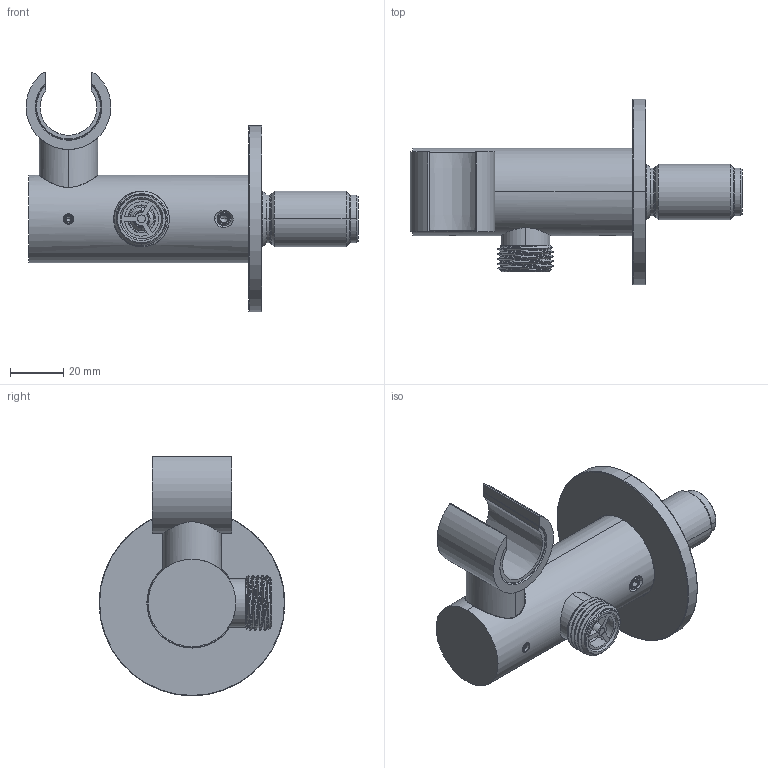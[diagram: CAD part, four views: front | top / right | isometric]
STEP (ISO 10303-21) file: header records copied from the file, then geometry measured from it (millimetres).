
FILE_DESCRIPTION((''),'2;1');
FILE_NAME('46883--_ASM','2025-03-03T15:40:23',('clra1'),(''),'CREO PARAMETRIC BY PTC INC, 2022244','CREO PARAMETRIC BY PTC INC, 2022244','');
FILE_SCHEMA(('CONFIG_CONTROL_DESIGN'));
Length unit declared in the file: millimetre
Products named in the file (24): 4688500; 4420585; 4449100; 46618--; 46884--; 7921600; 4449200; 46887--_PRT1; 46887--_PRT2; 46887--_ASM; 46898--; 42573--; 4950500-1; 4950500-2; 4950500-3; 4950500-F; 4950500-02; 4950500-01; 4950100_ASM; 4255900; 4124500; 4688800; 4689900; 46883--_ASM
Assembly tree (25 placements, depth 3):
  46883--_ASM
    4688500
    4420585
    4449100
    46618--
    46884--
    7921600
    4449200  x2
    46887--_ASM
      46887--_PRT1
      46887--_PRT2
    46898--
    42573--
    4950100_ASM
      4950500-1
      4950500-2
      4950500-3
      4950500-F
      4950500-02
      4950500-01
    4255900
    4124500  x2
    4688800
    4689900
Bounding box: 125 x 70 x 90.28 mm (x, y, z)
Volume: 91575.5 mm3; surface area: 59605.6 mm2
Topology: 23 solids, 29 shells, 1055 faces, 2728 edges, 1768 vertices
Faces by surface type: plane 647, cylinder 210, cone 111, torus 60, bspline 27
Entity records: 41801 total; most frequent: CARTESIAN_POINT 15981, ORIENTED_EDGE 5302, DIRECTION 5159, EDGE_CURVE 2668, VECTOR 1833, LINE 1833, VERTEX_POINT 1736, AXIS2_PLACEMENT_3D 1663
